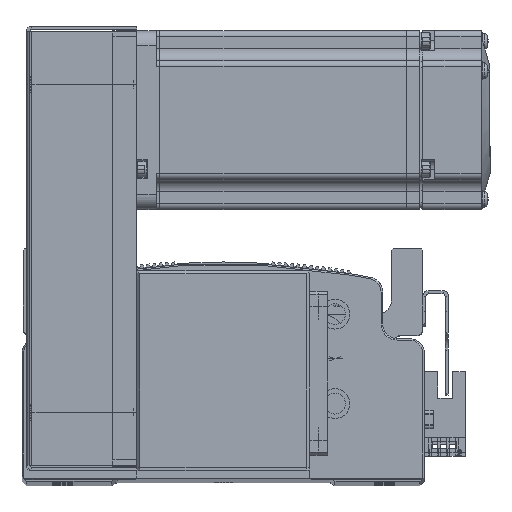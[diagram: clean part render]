
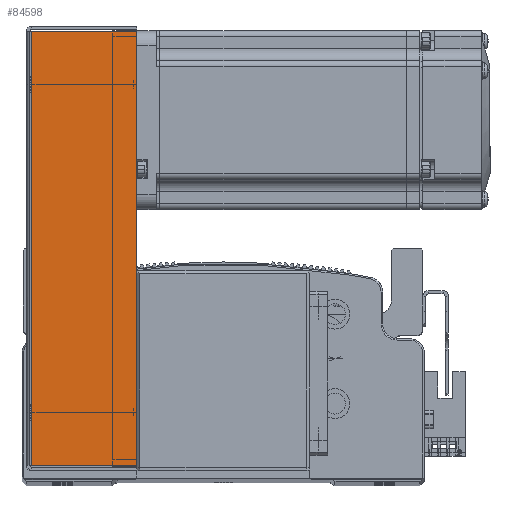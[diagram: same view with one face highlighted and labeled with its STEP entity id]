
A CAD part, top view. The second image highlights one B-rep face of the part: STEP entity #84598.
In plain terms, the highlighted planar face has unit normal (0, 0, 1).
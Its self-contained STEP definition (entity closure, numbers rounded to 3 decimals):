
#6588 = VERTEX_POINT ( 'NONE', #56918 ) ;
#12052 = EDGE_LOOP ( 'NONE', ( #78288, #78311, #78216, #78371 ) ) ;
#27383 = EDGE_CURVE ( 'NONE', #6588, #78050, #55129, .T. ) ;
#27394 = EDGE_CURVE ( 'NONE', #6588, #78063, #55150, .T. ) ;
#27409 = EDGE_CURVE ( 'NONE', #78063, #78075, #55131, .T. ) ;
#27457 = EDGE_CURVE ( 'NONE', #78050, #78075, #55187, .T. ) ;
#36655 = DIRECTION ( 'NONE',  ( -1., 0., 0. ) ) ;
#36690 = DIRECTION ( 'NONE',  ( 0., 0., -1. ) ) ;
#38855 = PLANE ( 'NONE',  #59499 ) ;
#38865 = CARTESIAN_POINT ( 'NONE',  ( 0., 0., 34.5 ) ) ;
#43618 = CARTESIAN_POINT ( 'NONE',  ( 0., 36., 34.5 ) ) ;
#43631 = CARTESIAN_POINT ( 'NONE',  ( 72.793, 0., 34.5 ) ) ;
#43633 = DIRECTION ( 'NONE',  ( 0., 1., 0. ) ) ;
#43639 = CARTESIAN_POINT ( 'NONE',  ( -74.5, 0.737, 34.5 ) ) ;
#43646 = DIRECTION ( 'NONE',  ( -1., 0., 0. ) ) ;
#43744 = DIRECTION ( 'NONE',  ( -1., 0., 0. ) ) ;
#43795 = CARTESIAN_POINT ( 'NONE',  ( -72.793, 0., 34.5 ) ) ;
#43843 = DIRECTION ( 'NONE',  ( 0., 1., 0. ) ) ;
#55106 = VECTOR ( 'NONE', #43646, 1000. ) ;
#55107 = VECTOR ( 'NONE', #43633, 1000. ) ;
#55129 = LINE ( 'NONE', #43639, #55106 ) ;
#55131 = LINE ( 'NONE', #43618, #55135 ) ;
#55135 = VECTOR ( 'NONE', #43744, 1000. ) ;
#55150 = LINE ( 'NONE', #43631, #55107 ) ;
#55187 = LINE ( 'NONE', #43795, #55219 ) ;
#55219 = VECTOR ( 'NONE', #43843, 1000. ) ;
#56918 = CARTESIAN_POINT ( 'NONE',  ( 72.793, 0.737, 34.5 ) ) ;
#59499 = AXIS2_PLACEMENT_3D ( 'NONE', #38865, #36690, #36655 ) ;
#69707 = FACE_OUTER_BOUND ( 'NONE', #12052, .T. ) ;
#71099 = CARTESIAN_POINT ( 'NONE',  ( 72.793, 36., 34.5 ) ) ;
#71107 = CARTESIAN_POINT ( 'NONE',  ( -72.793, 36., 34.5 ) ) ;
#71129 = CARTESIAN_POINT ( 'NONE',  ( -72.793, 0.737, 34.5 ) ) ;
#78050 = VERTEX_POINT ( 'NONE', #71129 ) ;
#78063 = VERTEX_POINT ( 'NONE', #71099 ) ;
#78075 = VERTEX_POINT ( 'NONE', #71107 ) ;
#78216 = ORIENTED_EDGE ( 'NONE', *, *, #27409, .T. ) ;
#78288 = ORIENTED_EDGE ( 'NONE', *, *, #27383, .F. ) ;
#78311 = ORIENTED_EDGE ( 'NONE', *, *, #27394, .T. ) ;
#78371 = ORIENTED_EDGE ( 'NONE', *, *, #27457, .F. ) ;
#84598 = ADVANCED_FACE ( 'NONE', ( #69707 ), #38855, .F. ) ;
